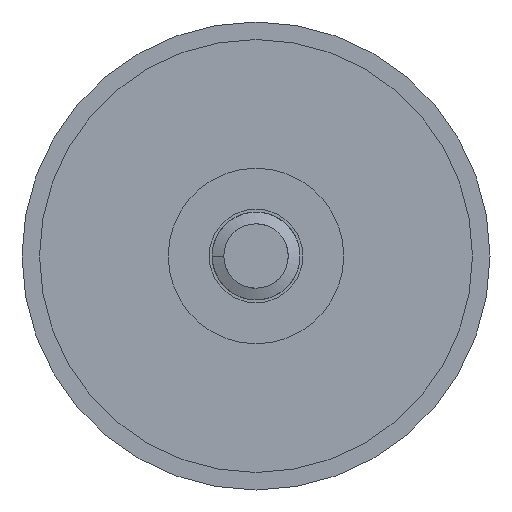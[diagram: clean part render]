
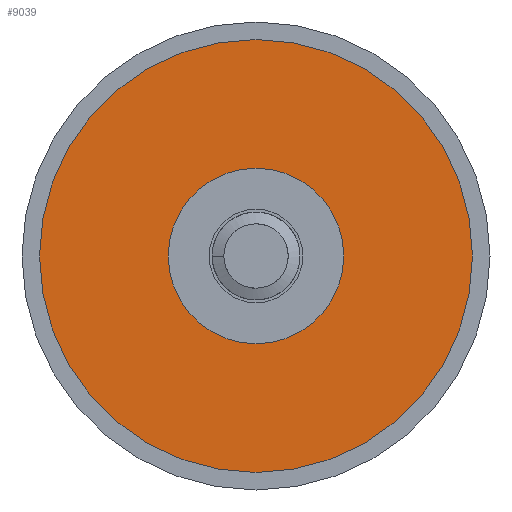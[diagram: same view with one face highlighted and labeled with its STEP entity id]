
A CAD part, front view. The second image highlights one B-rep face of the part: STEP entity #9039.
In plain terms, the highlighted planar face has unit normal (0, -1, 0).
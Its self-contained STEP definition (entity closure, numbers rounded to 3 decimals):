
#48 = VERTEX_POINT ( 'NONE', #4510 ) ;
#478 = DIRECTION ( 'NONE',  ( 0., -1., 0. ) ) ;
#580 = CIRCLE ( 'NONE', #9494, 18.5 ) ;
#857 = FACE_BOUND ( 'NONE', #6016, .T. ) ;
#1109 = CARTESIAN_POINT ( 'NONE',  ( 0., 0., 0. ) ) ;
#1236 = CARTESIAN_POINT ( 'NONE',  ( 0., 0., 0. ) ) ;
#1268 = DIRECTION ( 'NONE',  ( 0., 0., -1. ) ) ;
#1728 = EDGE_CURVE ( 'NONE', #48, #6830, #7145, .T. ) ;
#1882 = DIRECTION ( 'NONE',  ( 0., 0., 1. ) ) ;
#1949 = DIRECTION ( 'NONE',  ( 0., 0., -1. ) ) ;
#2255 = AXIS2_PLACEMENT_3D ( 'NONE', #8893, #6515, #1882 ) ;
#2640 = DIRECTION ( 'NONE',  ( 0., -1., 0. ) ) ;
#2810 = ORIENTED_EDGE ( 'NONE', *, *, #9025, .F. ) ;
#3115 = ORIENTED_EDGE ( 'NONE', *, *, #3663, .F. ) ;
#3142 = CIRCLE ( 'NONE', #5529, 7.5 ) ;
#3298 = AXIS2_PLACEMENT_3D ( 'NONE', #4143, #4995, #8070 ) ;
#3458 = VERTEX_POINT ( 'NONE', #8746 ) ;
#3459 = DIRECTION ( 'NONE',  ( 0., -1., 0. ) ) ;
#3663 = EDGE_CURVE ( 'NONE', #8910, #3458, #3142, .T. ) ;
#4143 = CARTESIAN_POINT ( 'NONE',  ( 0., 0., 0. ) ) ;
#4156 = EDGE_CURVE ( 'NONE', #6830, #48, #580, .T. ) ;
#4247 = FACE_OUTER_BOUND ( 'NONE', #4697, .T. ) ;
#4267 = DIRECTION ( 'NONE',  ( 0., 0., -1. ) ) ;
#4510 = CARTESIAN_POINT ( 'NONE',  ( 0., 0., 18.5 ) ) ;
#4697 = EDGE_LOOP ( 'NONE', ( #9424, #7178 ) ) ;
#4972 = PLANE ( 'NONE',  #2255 ) ;
#4995 = DIRECTION ( 'NONE',  ( 0., -1., 0. ) ) ;
#5506 = CARTESIAN_POINT ( 'NONE',  ( 0., 0., 7.5 ) ) ;
#5529 = AXIS2_PLACEMENT_3D ( 'NONE', #8099, #3459, #4267 ) ;
#6016 = EDGE_LOOP ( 'NONE', ( #2810, #3115 ) ) ;
#6515 = DIRECTION ( 'NONE',  ( 0., 1., 0. ) ) ;
#6830 = VERTEX_POINT ( 'NONE', #9357 ) ;
#7118 = AXIS2_PLACEMENT_3D ( 'NONE', #1109, #2640, #1949 ) ;
#7145 = CIRCLE ( 'NONE', #3298, 18.5 ) ;
#7178 = ORIENTED_EDGE ( 'NONE', *, *, #1728, .T. ) ;
#8070 = DIRECTION ( 'NONE',  ( 0., 0., -1. ) ) ;
#8099 = CARTESIAN_POINT ( 'NONE',  ( 0., 0., 0. ) ) ;
#8732 = CIRCLE ( 'NONE', #7118, 7.5 ) ;
#8746 = CARTESIAN_POINT ( 'NONE',  ( 0., 0., -7.5 ) ) ;
#8893 = CARTESIAN_POINT ( 'NONE',  ( 0., 0., 0. ) ) ;
#8910 = VERTEX_POINT ( 'NONE', #5506 ) ;
#9025 = EDGE_CURVE ( 'NONE', #3458, #8910, #8732, .T. ) ;
#9039 = ADVANCED_FACE ( 'NONE', ( #857, #4247 ), #4972, .F. ) ;
#9357 = CARTESIAN_POINT ( 'NONE',  ( 0., 0., -18.5 ) ) ;
#9424 = ORIENTED_EDGE ( 'NONE', *, *, #4156, .T. ) ;
#9494 = AXIS2_PLACEMENT_3D ( 'NONE', #1236, #478, #1268 ) ;
